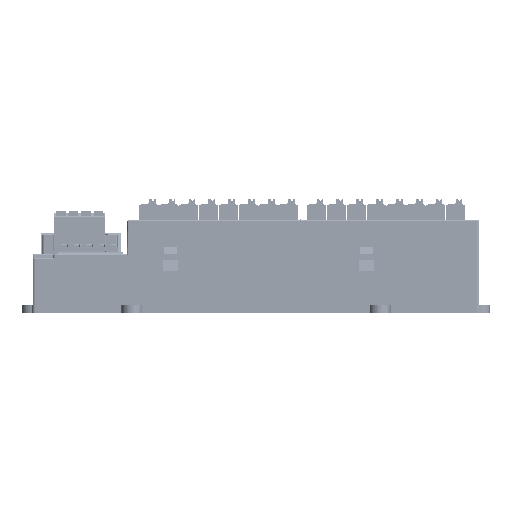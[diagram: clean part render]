
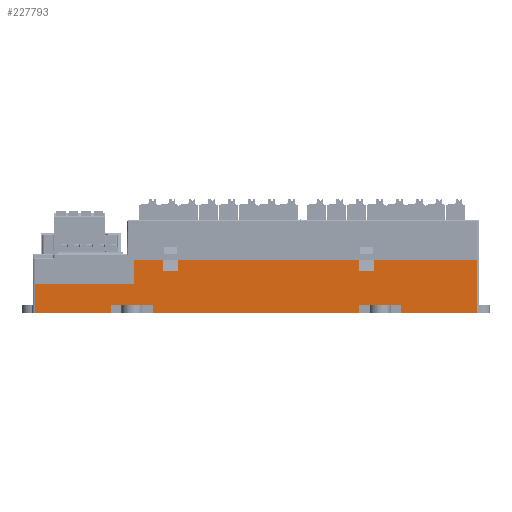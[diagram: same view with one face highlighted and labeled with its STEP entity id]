
A CAD part, front view. The second image highlights one B-rep face of the part: STEP entity #227793.
In plain terms, the highlighted planar face has unit normal (0, -1, 0).
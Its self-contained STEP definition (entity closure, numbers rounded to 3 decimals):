
#227793=ADVANCED_FACE('',(#299024),#258678,.T.);
#258678=PLANE('',#992652);
#299024=FACE_OUTER_BOUND('',#346552,.T.);
#346552=EDGE_LOOP('',(#571934,#571935,#571936,#571937,#571938,#571939,#571940,
#571941,#571942,#571943,#571944,#571945,#571946,#571947,#571948,#571949,
#571950,#571951,#571952,#571953,#571954,#571955));
#571934=ORIENTED_EDGE('',*,*,#775498,.F.);
#571935=ORIENTED_EDGE('',*,*,#775521,.T.);
#571936=ORIENTED_EDGE('',*,*,#775522,.T.);
#571937=ORIENTED_EDGE('',*,*,#775338,.T.);
#571938=ORIENTED_EDGE('',*,*,#775523,.T.);
#571939=ORIENTED_EDGE('',*,*,#775524,.T.);
#571940=ORIENTED_EDGE('',*,*,#775525,.T.);
#571941=ORIENTED_EDGE('',*,*,#775377,.T.);
#571942=ORIENTED_EDGE('',*,*,#775526,.T.);
#571943=ORIENTED_EDGE('',*,*,#775527,.T.);
#571944=ORIENTED_EDGE('',*,*,#775518,.T.);
#571945=ORIENTED_EDGE('',*,*,#775528,.F.);
#571946=ORIENTED_EDGE('',*,*,#775529,.F.);
#571947=ORIENTED_EDGE('',*,*,#775530,.F.);
#571948=ORIENTED_EDGE('',*,*,#775531,.T.);
#571949=ORIENTED_EDGE('',*,*,#775532,.F.);
#571950=ORIENTED_EDGE('',*,*,#775533,.F.);
#571951=ORIENTED_EDGE('',*,*,#775534,.T.);
#571952=ORIENTED_EDGE('',*,*,#775535,.T.);
#571953=ORIENTED_EDGE('',*,*,#775536,.F.);
#571954=ORIENTED_EDGE('',*,*,#775537,.T.);
#571955=ORIENTED_EDGE('',*,*,#775538,.F.);
#659525=VERTEX_POINT('',#1537962);
#659526=VERTEX_POINT('',#1537964);
#659563=VERTEX_POINT('',#1538039);
#659564=VERTEX_POINT('',#1538041);
#659678=VERTEX_POINT('',#1538282);
#659679=VERTEX_POINT('',#1538284);
#659695=VERTEX_POINT('',#1538324);
#659696=VERTEX_POINT('',#1538325);
#659697=VERTEX_POINT('',#1538330);
#659698=VERTEX_POINT('',#1538333);
#659699=VERTEX_POINT('',#1538335);
#659700=VERTEX_POINT('',#1538338);
#659701=VERTEX_POINT('',#1538341);
#659702=VERTEX_POINT('',#1538343);
#659703=VERTEX_POINT('',#1538345);
#659704=VERTEX_POINT('',#1538347);
#659705=VERTEX_POINT('',#1538349);
#659706=VERTEX_POINT('',#1538351);
#659707=VERTEX_POINT('',#1538353);
#659708=VERTEX_POINT('',#1538355);
#659709=VERTEX_POINT('',#1538357);
#659710=VERTEX_POINT('',#1538359);
#775338=EDGE_CURVE('',#659526,#659525,#855402,.T.);
#775377=EDGE_CURVE('',#659564,#659563,#855429,.T.);
#775498=EDGE_CURVE('',#659678,#659679,#855533,.T.);
#775518=EDGE_CURVE('',#659695,#659696,#855548,.T.);
#775521=EDGE_CURVE('',#659678,#659697,#855549,.T.);
#775522=EDGE_CURVE('',#659697,#659526,#855550,.T.);
#775523=EDGE_CURVE('',#659525,#659698,#855551,.T.);
#775524=EDGE_CURVE('',#659698,#659699,#855552,.T.);
#775525=EDGE_CURVE('',#659699,#659564,#855553,.T.);
#775526=EDGE_CURVE('',#659563,#659700,#855554,.T.);
#775527=EDGE_CURVE('',#659700,#659695,#855555,.T.);
#775528=EDGE_CURVE('',#659701,#659696,#855556,.T.);
#775529=EDGE_CURVE('',#659702,#659701,#855557,.T.);
#775530=EDGE_CURVE('',#659703,#659702,#855558,.T.);
#775531=EDGE_CURVE('',#659703,#659704,#855559,.T.);
#775532=EDGE_CURVE('',#659705,#659704,#855560,.T.);
#775533=EDGE_CURVE('',#659706,#659705,#855561,.T.);
#775534=EDGE_CURVE('',#659706,#659707,#855562,.T.);
#775535=EDGE_CURVE('',#659707,#659708,#855563,.T.);
#775536=EDGE_CURVE('',#659709,#659708,#855564,.T.);
#775537=EDGE_CURVE('',#659709,#659710,#855565,.T.);
#775538=EDGE_CURVE('',#659679,#659710,#855566,.T.);
#855402=LINE('',#1537963,#940902);
#855429=LINE('',#1538040,#940929);
#855533=LINE('',#1538283,#941033);
#855548=LINE('',#1538323,#941048);
#855549=LINE('',#1538329,#941049);
#855550=LINE('',#1538331,#941050);
#855551=LINE('',#1538332,#941051);
#855552=LINE('',#1538334,#941052);
#855553=LINE('',#1538336,#941053);
#855554=LINE('',#1538337,#941054);
#855555=LINE('',#1538339,#941055);
#855556=LINE('',#1538340,#941056);
#855557=LINE('',#1538342,#941057);
#855558=LINE('',#1538344,#941058);
#855559=LINE('',#1538346,#941059);
#855560=LINE('',#1538348,#941060);
#855561=LINE('',#1538350,#941061);
#855562=LINE('',#1538352,#941062);
#855563=LINE('',#1538354,#941063);
#855564=LINE('',#1538356,#941064);
#855565=LINE('',#1538358,#941065);
#855566=LINE('',#1538360,#941066);
#940902=VECTOR('',#1169282,1.);
#940929=VECTOR('',#1169333,1.);
#941033=VECTOR('',#1169485,1.);
#941048=VECTOR('',#1169518,1.);
#941049=VECTOR('',#1169525,1.);
#941050=VECTOR('',#1169526,1.);
#941051=VECTOR('',#1169527,1.);
#941052=VECTOR('',#1169528,1.);
#941053=VECTOR('',#1169529,1.);
#941054=VECTOR('',#1169530,1.);
#941055=VECTOR('',#1169531,1.);
#941056=VECTOR('',#1169532,1.);
#941057=VECTOR('',#1169533,1.);
#941058=VECTOR('',#1169534,1.);
#941059=VECTOR('',#1169535,1.);
#941060=VECTOR('',#1169536,1.);
#941061=VECTOR('',#1169537,1.);
#941062=VECTOR('',#1169538,1.);
#941063=VECTOR('',#1169539,1.);
#941064=VECTOR('',#1169540,1.);
#941065=VECTOR('',#1169541,1.);
#941066=VECTOR('',#1169542,1.);
#992652=AXIS2_PLACEMENT_3D('',#1538361,#1169543,#1169544);
#1169282=DIRECTION('',(1.,0.,0.));
#1169333=DIRECTION('',(1.,0.,0.));
#1169485=DIRECTION('',(0.,0.,1.));
#1169518=DIRECTION('',(0.,0.,1.));
#1169525=DIRECTION('',(1.,0.,0.));
#1169526=DIRECTION('',(0.017,0.,1.));
#1169527=DIRECTION('',(0.017,0.,-1.));
#1169528=DIRECTION('',(1.,0.,0.));
#1169529=DIRECTION('',(0.017,0.,1.));
#1169530=DIRECTION('',(0.017,0.,-1.));
#1169531=DIRECTION('',(1.,0.,0.));
#1169532=DIRECTION('',(1.,0.,0.));
#1169533=DIRECTION('',(0.,0.,1.));
#1169534=DIRECTION('',(1.,0.,0.));
#1169535=DIRECTION('',(0.,0.,1.));
#1169536=DIRECTION('',(1.,0.,0.));
#1169537=DIRECTION('',(0.,0.,1.));
#1169538=DIRECTION('',(-1.,0.,0.));
#1169539=DIRECTION('',(0.,0.,1.));
#1169540=DIRECTION('',(1.,0.,0.));
#1169541=DIRECTION('',(0.,0.,-1.));
#1169542=DIRECTION('',(1.,0.,0.));
#1169543=DIRECTION('',(0.,-1.,0.));
#1169544=DIRECTION('',(0.,0.,-1.));
#1537962=CARTESIAN_POINT('',(170.952,-33.,-4.133));
#1537963=CARTESIAN_POINT('',(230.487,-33.,-4.133));
#1537964=CARTESIAN_POINT('',(153.952,-33.,-4.133));
#1538039=CARTESIAN_POINT('',(270.952,-33.,-4.133));
#1538040=CARTESIAN_POINT('',(230.487,-33.,-4.133));
#1538041=CARTESIAN_POINT('',(253.952,-33.,-4.133));
#1538282=CARTESIAN_POINT('',(123.452,-33.,-7.133));
#1538283=CARTESIAN_POINT('',(123.452,-33.,-5.533));
#1538284=CARTESIAN_POINT('',(123.452,-33.,4.267));
#1538323=CARTESIAN_POINT('',(301.452,-33.,-5.533));
#1538324=CARTESIAN_POINT('',(301.452,-33.,-7.133));
#1538325=CARTESIAN_POINT('',(301.452,-33.,13.867));
#1538329=CARTESIAN_POINT('',(227.487,-33.,-7.133));
#1538330=CARTESIAN_POINT('',(153.899,-33.,-7.133));
#1538331=CARTESIAN_POINT('',(153.951,-33.,-4.197));
#1538332=CARTESIAN_POINT('',(170.994,-33.,-6.571));
#1538333=CARTESIAN_POINT('',(171.004,-33.,-7.133));
#1538334=CARTESIAN_POINT('',(230.487,-33.,-7.133));
#1538335=CARTESIAN_POINT('',(253.899,-33.,-7.133));
#1538336=CARTESIAN_POINT('',(253.92,-33.,-5.942));
#1538337=CARTESIAN_POINT('',(270.964,-33.,-4.826));
#1538338=CARTESIAN_POINT('',(271.004,-33.,-7.133));
#1538339=CARTESIAN_POINT('',(230.487,-33.,-7.133));
#1538340=CARTESIAN_POINT('',(218.487,-33.,13.867));
#1538341=CARTESIAN_POINT('',(259.952,-33.,13.867));
#1538342=CARTESIAN_POINT('',(259.952,-33.,4.067));
#1538343=CARTESIAN_POINT('',(259.952,-33.,9.567));
#1538344=CARTESIAN_POINT('',(239.487,-33.,9.567));
#1538345=CARTESIAN_POINT('',(253.952,-33.,9.567));
#1538346=CARTESIAN_POINT('',(253.952,-33.,4.067));
#1538347=CARTESIAN_POINT('',(253.952,-33.,13.867));
#1538348=CARTESIAN_POINT('',(230.487,-33.,13.867));
#1538349=CARTESIAN_POINT('',(180.952,-33.,13.867));
#1538350=CARTESIAN_POINT('',(180.952,-33.,9.567));
#1538351=CARTESIAN_POINT('',(180.952,-33.,9.567));
#1538352=CARTESIAN_POINT('',(195.416,-33.,9.567));
#1538353=CARTESIAN_POINT('',(174.952,-33.,9.567));
#1538354=CARTESIAN_POINT('',(174.952,-33.,9.567));
#1538355=CARTESIAN_POINT('',(174.952,-33.,13.867));
#1538356=CARTESIAN_POINT('',(230.487,-33.,13.867));
#1538357=CARTESIAN_POINT('',(163.452,-33.,13.867));
#1538358=CARTESIAN_POINT('',(163.452,-33.,-5.533));
#1538359=CARTESIAN_POINT('',(163.452,-33.,4.267));
#1538360=CARTESIAN_POINT('',(227.487,-33.,4.267));
#1538361=CARTESIAN_POINT('',(230.487,-33.,-5.533));
